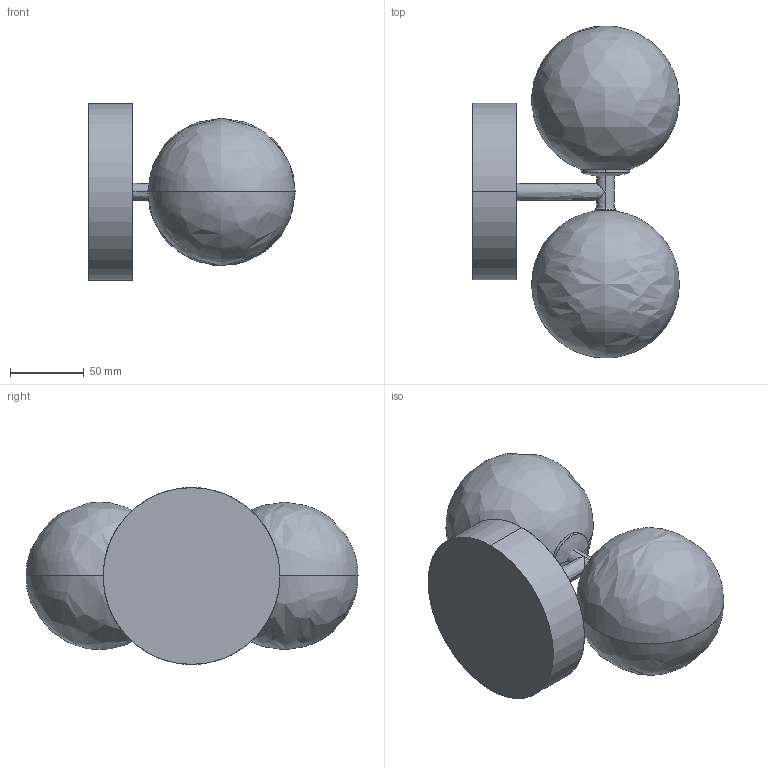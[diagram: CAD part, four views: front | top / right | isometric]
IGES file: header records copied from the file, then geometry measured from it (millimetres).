
Start section: SolidWorks IGES file using analytic representation for surfaces
Global section: file name: C:\Users\adrian\Desktop\MODELADOS USA\DALT\AU1280\DALT_AU1280.IGS; native system: SolidWorks 2023; preprocessor: SolidWorks 2023; author: adrian; date: 260605.094129; units: inch
Bounding box: 139.96 x 225.04 x 119.89 mm (x, y, z)
Surface area: 129757.7 mm2 (no closed solid volume)
Topology: 0 solids, 0 shells, 35 faces, 560 edges, 548 vertices
Faces by surface type: bspline 33, revolution 2
